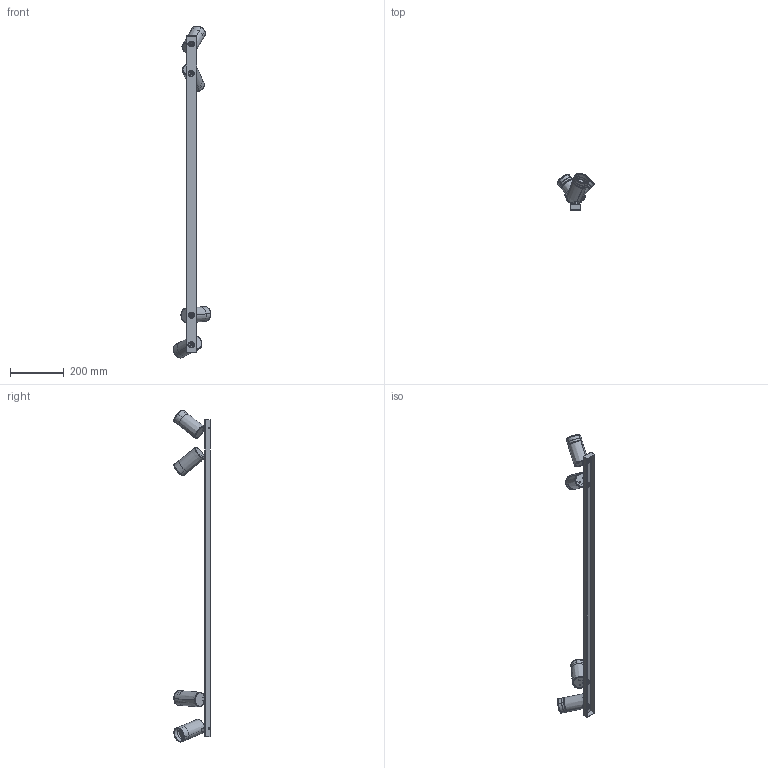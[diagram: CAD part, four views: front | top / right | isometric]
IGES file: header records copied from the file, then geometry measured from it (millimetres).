
Start section: SolidWorks IGES file using analytic representation for surfaces
Global section: file name: Z:\Modele 3D_WWW\_KOLEKCJE_WWW\MONO\MONO-BELKA\MONO-IV-GOLD-7768-7776\MONO-IV-GOLD-7768-7776.IGS; native system: SolidWorks 2021; preprocessor: SolidWorks 2021; author: gabriela.tworek; date: 210723.080444; units: millimetre
Bounding box: 139.61 x 135.44 x 1236.77 mm (x, y, z)
Surface area: 421047.2 mm2 (no closed solid volume)
Topology: 0 solids, 0 shells, 898 faces, 14360 edges, 14356 vertices
Faces by surface type: revolution 552, bspline 346
